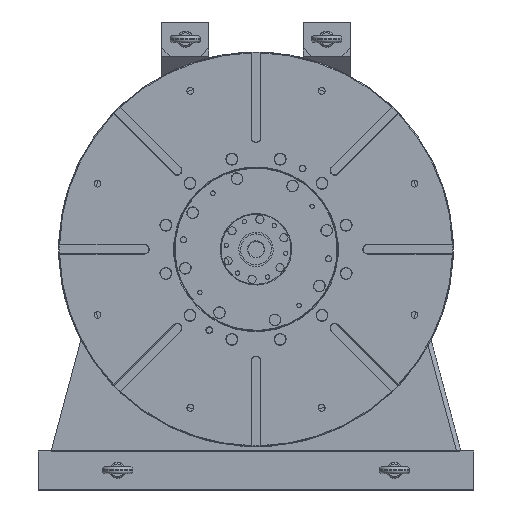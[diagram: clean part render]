
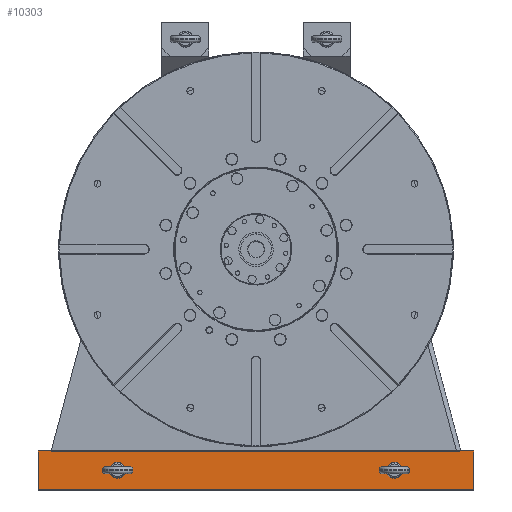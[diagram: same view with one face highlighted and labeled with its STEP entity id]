
A CAD part, top view. The second image highlights one B-rep face of the part: STEP entity #10303.
In plain terms, the highlighted planar face has unit normal (0, 0, 1).
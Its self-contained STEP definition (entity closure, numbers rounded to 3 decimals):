
#1892 = CARTESIAN_POINT ( 'NONE',  ( 322.5, -515., 311. ) ) ;
#2248 = DIRECTION ( 'NONE',  ( 1., 0., 0. ) ) ;
#2300 = CARTESIAN_POINT ( 'NONE',  ( 332.5, -515., 311. ) ) ;
#2659 = LINE ( 'NONE', #5556, #22439 ) ;
#2844 = LINE ( 'NONE', #31204, #3820 ) ;
#3481 = CARTESIAN_POINT ( 'NONE',  ( 508., -470., 311. ) ) ;
#3592 = EDGE_CURVE ( 'NONE', #35350, #35350, #33683, .T. ) ;
#3820 = VECTOR ( 'NONE', #11892, 1000. ) ;
#3914 = CARTESIAN_POINT ( 'NONE',  ( -322.5, -515., 311. ) ) ;
#5556 = CARTESIAN_POINT ( 'NONE',  ( -508., -470., 311. ) ) ;
#5598 = CARTESIAN_POINT ( 'NONE',  ( 0., 0., 311. ) ) ;
#6427 = CARTESIAN_POINT ( 'NONE',  ( 508., -470., 311. ) ) ;
#6692 = ORIENTED_EDGE ( 'NONE', *, *, #16571, .F. ) ;
#6966 = VERTEX_POINT ( 'NONE', #20984 ) ;
#8312 = EDGE_LOOP ( 'NONE', ( #9959 ) ) ;
#8551 = LINE ( 'NONE', #3481, #29949 ) ;
#9681 = ORIENTED_EDGE ( 'NONE', *, *, #12378, .F. ) ;
#9931 = VERTEX_POINT ( 'NONE', #15055 ) ;
#9959 = ORIENTED_EDGE ( 'NONE', *, *, #3592, .F. ) ;
#10060 = LINE ( 'NONE', #32072, #24365 ) ;
#10303 = ADVANCED_FACE ( 'NONE', ( #22038, #30503, #33050 ), #19332, .T. ) ;
#10578 = EDGE_CURVE ( 'NONE', #9931, #6966, #19168, .T. ) ;
#11384 = DIRECTION ( 'NONE',  ( 1., 0., 0. ) ) ;
#11892 = DIRECTION ( 'NONE',  ( 1., 0., 0. ) ) ;
#11898 = CARTESIAN_POINT ( 'NONE',  ( 467.147, -470., 311. ) ) ;
#12119 = ORIENTED_EDGE ( 'NONE', *, *, #10578, .T. ) ;
#12378 = EDGE_CURVE ( 'NONE', #29267, #16990, #2844, .T. ) ;
#12663 = CIRCLE ( 'NONE', #34559, 10. ) ;
#12937 = DIRECTION ( 'NONE',  ( 0., 0., 1. ) ) ;
#13087 = ORIENTED_EDGE ( 'NONE', *, *, #15627, .F. ) ;
#13388 = AXIS2_PLACEMENT_3D ( 'NONE', #5598, #14099, #11384 ) ;
#13820 = CARTESIAN_POINT ( 'NONE',  ( -312.5, -515., 311. ) ) ;
#14099 = DIRECTION ( 'NONE',  ( 0., 0., 1. ) ) ;
#14342 = VERTEX_POINT ( 'NONE', #6427 ) ;
#14968 = DIRECTION ( 'NONE',  ( 1., 0., 0. ) ) ;
#15055 = CARTESIAN_POINT ( 'NONE',  ( -508., -560., 311. ) ) ;
#15063 = ORIENTED_EDGE ( 'NONE', *, *, #23818, .F. ) ;
#15627 = EDGE_CURVE ( 'NONE', #32433, #32433, #12663, .T. ) ;
#16439 = CARTESIAN_POINT ( 'NONE',  ( -508., -470., 311. ) ) ;
#16571 = EDGE_CURVE ( 'NONE', #14342, #6966, #8551, .T. ) ;
#16593 = DIRECTION ( 'NONE',  ( 1., 0., 0. ) ) ;
#16990 = VERTEX_POINT ( 'NONE', #11898 ) ;
#19168 = LINE ( 'NONE', #29809, #27243 ) ;
#19332 = PLANE ( 'NONE',  #13388 ) ;
#20984 = CARTESIAN_POINT ( 'NONE',  ( 508., -560., 311. ) ) ;
#22038 = FACE_OUTER_BOUND ( 'NONE', #30812, .T. ) ;
#22439 = VECTOR ( 'NONE', #16593, 1000. ) ;
#23818 = EDGE_CURVE ( 'NONE', #16990, #14342, #2659, .T. ) ;
#23877 = AXIS2_PLACEMENT_3D ( 'NONE', #1892, #12937, #2248 ) ;
#24365 = VECTOR ( 'NONE', #32442, 1000. ) ;
#27243 = VECTOR ( 'NONE', #30152, 1000. ) ;
#29267 = VERTEX_POINT ( 'NONE', #16439 ) ;
#29586 = EDGE_LOOP ( 'NONE', ( #13087 ) ) ;
#29809 = CARTESIAN_POINT ( 'NONE',  ( -508., -560., 311. ) ) ;
#29902 = ORIENTED_EDGE ( 'NONE', *, *, #32493, .T. ) ;
#29949 = VECTOR ( 'NONE', #31113, 1000. ) ;
#30152 = DIRECTION ( 'NONE',  ( 1., 0., 0. ) ) ;
#30503 = FACE_BOUND ( 'NONE', #29586, .T. ) ;
#30812 = EDGE_LOOP ( 'NONE', ( #15063, #9681, #29902, #12119, #6692 ) ) ;
#31113 = DIRECTION ( 'NONE',  ( 0., -1., 0. ) ) ;
#31204 = CARTESIAN_POINT ( 'NONE',  ( -508., -470., 311. ) ) ;
#31544 = DIRECTION ( 'NONE',  ( 0., 0., 1. ) ) ;
#32072 = CARTESIAN_POINT ( 'NONE',  ( -508., -470., 311. ) ) ;
#32433 = VERTEX_POINT ( 'NONE', #13820 ) ;
#32442 = DIRECTION ( 'NONE',  ( 0., -1., 0. ) ) ;
#32493 = EDGE_CURVE ( 'NONE', #29267, #9931, #10060, .T. ) ;
#33050 = FACE_BOUND ( 'NONE', #8312, .T. ) ;
#33683 = CIRCLE ( 'NONE', #23877, 10. ) ;
#34559 = AXIS2_PLACEMENT_3D ( 'NONE', #3914, #31544, #14968 ) ;
#35350 = VERTEX_POINT ( 'NONE', #2300 ) ;
